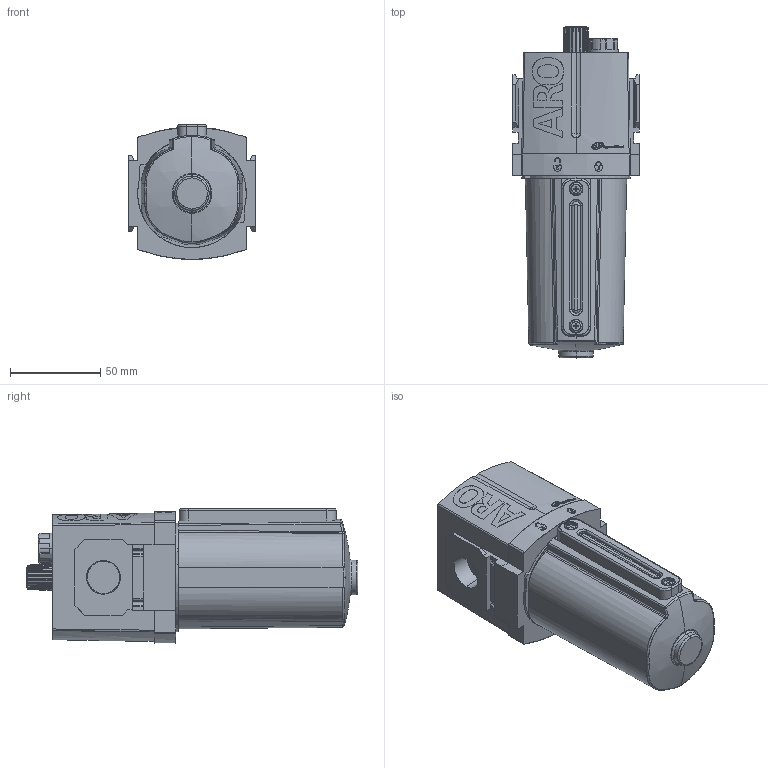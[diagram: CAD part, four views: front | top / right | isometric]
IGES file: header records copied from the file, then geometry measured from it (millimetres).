
Global section: file name: C:\Documents and Settings\szeedyk\Desktop\L363X1-X1X_01.igs; native system: NX V4.0; preprocessor: UGS NX IGES V4.0; date: 20090205.141021; units: inch
Bounding box: 70 x 183.5 x 74.5 mm (x, y, z)
Surface area: 49837.6 mm2 (no closed solid volume)
Topology: 0 solids, 0 shells, 1109 faces, 6444 edges, 6444 vertices
Faces by surface type: bspline 1109
